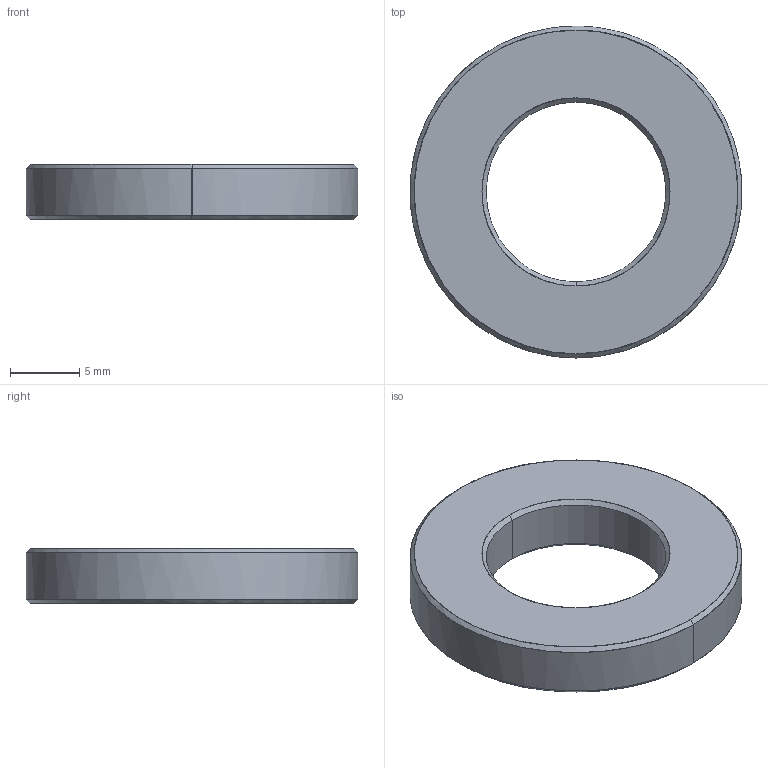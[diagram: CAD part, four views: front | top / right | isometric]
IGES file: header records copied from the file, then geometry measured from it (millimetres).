
Global section: file name: E:\UnigraphicsGraphicData\MISUMI_PRESS-PARTS\IGES\3d_wss12_00532_r00.igs; native system: NX V5.0; preprocessor: UGS NX IGES V5.0; author: MISUMI; date: 20110105.163507; units: millimetre
Bounding box: 23.97 x 24 x 4 mm (x, y, z)
Surface area: 1065.3 mm2 (no closed solid volume)
Topology: 0 solids, 0 shells, 14 faces, 80 edges, 80 vertices
Faces by surface type: bspline 14
